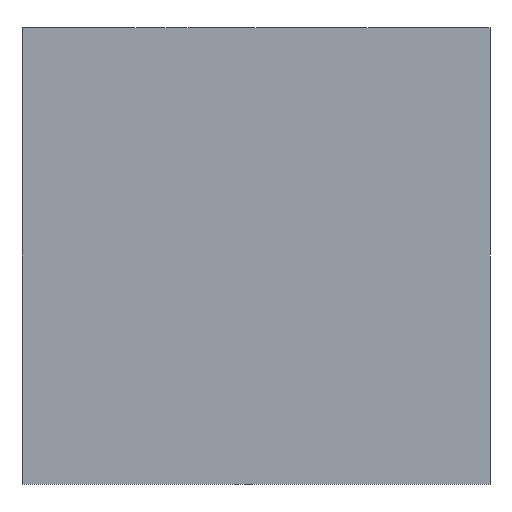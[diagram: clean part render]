
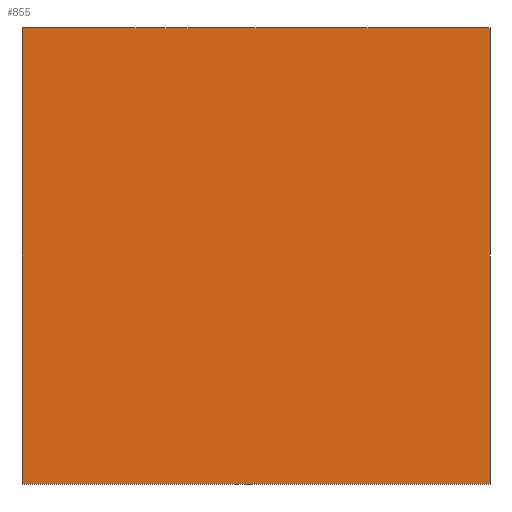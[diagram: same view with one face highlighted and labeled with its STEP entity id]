
A CAD part, left-side view. The second image highlights one B-rep face of the part: STEP entity #855.
In plain terms, the highlighted planar face has unit normal (-1, 0, 0).
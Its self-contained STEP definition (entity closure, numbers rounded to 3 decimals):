
#23=DIRECTION('',(0.,1.,0.));
#24=VECTOR('',#23,125.);
#25=CARTESIAN_POINT('',(-47.5,-62.5,0.));
#26=LINE('',#25,#24);
#44=DIRECTION('',(0.,0.,-1.));
#45=VECTOR('',#44,122.);
#46=CARTESIAN_POINT('',(-47.5,62.5,0.));
#47=LINE('',#46,#45);
#341=DIRECTION('',(0.,-1.,0.));
#342=VECTOR('',#341,125.);
#343=CARTESIAN_POINT('',(-47.5,62.5,-122.));
#344=LINE('',#343,#342);
#353=DIRECTION('',(0.,0.,1.));
#354=VECTOR('',#353,122.);
#355=CARTESIAN_POINT('',(-47.5,-62.5,-122.));
#356=LINE('',#355,#354);
#367=CARTESIAN_POINT('',(-47.5,-62.5,0.));
#368=VERTEX_POINT('',#367);
#369=CARTESIAN_POINT('',(-47.5,62.5,0.));
#370=VERTEX_POINT('',#369);
#419=CARTESIAN_POINT('',(-47.5,62.5,-122.));
#420=VERTEX_POINT('',#419);
#460=CARTESIAN_POINT('',(-47.5,-62.5,-122.));
#461=VERTEX_POINT('',#460);
#843=CARTESIAN_POINT('',(-47.5,0.,0.));
#844=DIRECTION('',(-1.,0.,0.));
#845=DIRECTION('',(0.,0.,-1.));
#846=AXIS2_PLACEMENT_3D('',#843,#844,#845);
#847=PLANE('',#846);
#848=ORIENTED_EDGE('',*,*,#477,.F.);
#850=ORIENTED_EDGE('',*,*,#849,.F.);
#851=ORIENTED_EDGE('',*,*,#836,.F.);
#852=ORIENTED_EDGE('',*,*,#514,.F.);
#853=EDGE_LOOP('',(#848,#850,#851,#852));
#854=FACE_OUTER_BOUND('',#853,.F.);
#855=ADVANCED_FACE('',(#854),#847,.T.);
#477=EDGE_CURVE('',#368,#370,#26,.T.);
#514=EDGE_CURVE('',#370,#420,#47,.T.);
#836=EDGE_CURVE('',#420,#461,#344,.T.);
#849=EDGE_CURVE('',#461,#368,#356,.T.);
